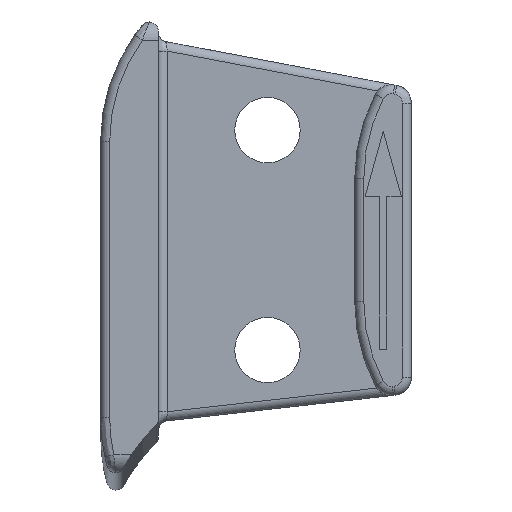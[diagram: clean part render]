
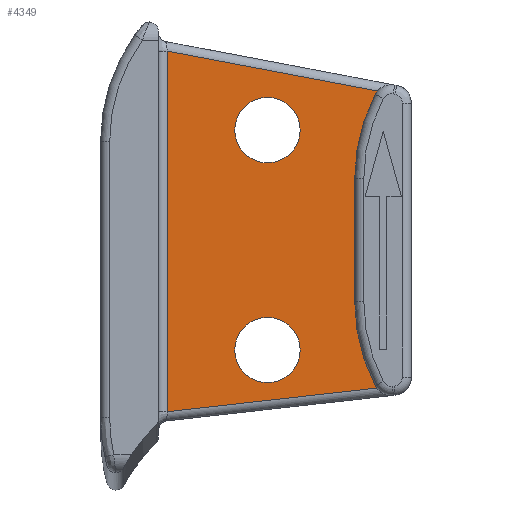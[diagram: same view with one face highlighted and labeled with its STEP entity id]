
A CAD part, left-side view. The second image highlights one B-rep face of the part: STEP entity #4349.
In plain terms, the highlighted planar face has unit normal (-1, 0, 0).
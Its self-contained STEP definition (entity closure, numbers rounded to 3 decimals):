
#763=CARTESIAN_POINT('',(-9.9,-1.,-9.44));
#793=CARTESIAN_POINT('',(-9.9,-6.5,6.05));
#794=DIRECTION('',(1.,0.,0.));
#795=DIRECTION('',(0.,1.,0.));
#796=AXIS2_PLACEMENT_3D('',#793,#794,#795);
#798=CARTESIAN_POINT('',(-9.9,-6.5,6.05));
#799=DIRECTION('',(1.,0.,0.));
#800=DIRECTION('',(0.,-1.,0.));
#801=AXIS2_PLACEMENT_3D('',#798,#799,#800);
#803=CARTESIAN_POINT('',(-9.9,-6.5,-6.05));
#804=DIRECTION('',(1.,0.,0.));
#805=DIRECTION('',(0.,1.,0.));
#806=AXIS2_PLACEMENT_3D('',#803,#804,#805);
#808=CARTESIAN_POINT('',(-9.9,-6.5,-6.05));
#809=DIRECTION('',(1.,0.,0.));
#810=DIRECTION('',(0.,-1.,0.));
#811=AXIS2_PLACEMENT_3D('',#808,#809,#810);
#813=DIRECTION('',(0.,0.,1.));
#814=VECTOR('',#813,19.837);
#815=CARTESIAN_POINT('',(-9.9,-1.,-9.44));
#816=LINE('',#815,#814);
#817=DIRECTION('',(0.,-0.982,-0.186));
#818=VECTOR('',#817,11.768);
#819=CARTESIAN_POINT('',(-9.9,-1.,10.396));
#820=LINE('',#819,#818);
#821=CARTESIAN_POINT('',(-9.9,-21.3,3.39));
#822=DIRECTION('',(1.,0.,0.));
#823=DIRECTION('',(0.,1.,0.));
#824=AXIS2_PLACEMENT_3D('',#821,#822,#823);
#826=DIRECTION('',(0.,0.,1.));
#827=VECTOR('',#826,6.78);
#828=CARTESIAN_POINT('',(-9.9,-11.3,-3.39));
#829=LINE('',#828,#827);
#830=CARTESIAN_POINT('',(-9.9,-21.3,-3.39));
#831=DIRECTION('',(1.,0.,0.));
#832=DIRECTION('',(0.,0.887,-0.462));
#833=AXIS2_PLACEMENT_3D('',#830,#831,#832);
#835=DIRECTION('',(0.,0.994,-0.112));
#836=VECTOR('',#835,11.587);
#837=CARTESIAN_POINT('',(-9.9,-12.514,-8.143));
#838=LINE('',#837,#836);
#1043=CARTESIAN_POINT('',(-9.9,-13.319,-7.549));
#1044=DIRECTION('',(-1.,0.,0.));
#1045=DIRECTION('',(0.,0.887,-0.462));
#1046=AXIS2_PLACEMENT_3D('',#1043,#1044,#1045);
#1233=CARTESIAN_POINT('',(-9.9,-13.319,7.551));
#1234=DIRECTION('',(-1.,0.,0.));
#1235=DIRECTION('',(0.,0.758,0.653));
#1236=AXIS2_PLACEMENT_3D('',#1233,#1234,#1235);
#1480=CARTESIAN_POINT('',(-9.9,-1.,10.396));
#2907=CARTESIAN_POINT('',(-9.9,-11.3,-3.39));
#2908=CARTESIAN_POINT('',(-9.9,-11.3,3.39));
#2909=VERTEX_POINT('',#2907);
#2910=VERTEX_POINT('',#2908);
#2911=CARTESIAN_POINT('',(-9.9,-12.432,-8.011));
#2912=VERTEX_POINT('',#2911);
#2913=CARTESIAN_POINT('',(-9.9,-12.433,8.013));
#2914=VERTEX_POINT('',#2913);
#2915=CARTESIAN_POINT('',(-9.9,-4.7,6.05));
#2916=CARTESIAN_POINT('',(-9.9,-8.3,6.05));
#2917=VERTEX_POINT('',#2915);
#2918=VERTEX_POINT('',#2916);
#2923=CARTESIAN_POINT('',(-9.9,-4.7,-6.05));
#2924=CARTESIAN_POINT('',(-9.9,-8.3,-6.05));
#2925=VERTEX_POINT('',#2923);
#2926=VERTEX_POINT('',#2924);
#3007=CARTESIAN_POINT('',(-9.9,-12.562,8.203));
#3008=VERTEX_POINT('',#3007);
#3009=CARTESIAN_POINT('',(-9.9,-12.514,-8.143));
#3010=VERTEX_POINT('',#3009);
#3015=VERTEX_POINT('',#1480);
#3032=VERTEX_POINT('',#763);
#4316=CARTESIAN_POINT('',(-9.9,0.5,-10.));
#4317=DIRECTION('',(1.,0.,0.));
#4318=DIRECTION('',(0.,0.,1.));
#4319=AXIS2_PLACEMENT_3D('',#4316,#4317,#4318);
#4320=PLANE('',#4319);
#4321=ORIENTED_EDGE('',*,*,#3953,.T.);
#4323=ORIENTED_EDGE('',*,*,#4322,.T.);
#4325=ORIENTED_EDGE('',*,*,#4324,.T.);
#4327=ORIENTED_EDGE('',*,*,#4326,.F.);
#4329=ORIENTED_EDGE('',*,*,#4328,.F.);
#4331=ORIENTED_EDGE('',*,*,#4330,.F.);
#4333=ORIENTED_EDGE('',*,*,#4332,.T.);
#4334=ORIENTED_EDGE('',*,*,#4305,.T.);
#4335=EDGE_LOOP('',(#4321,#4323,#4325,#4327,#4329,#4331,#4333,#4334));
#4336=FACE_OUTER_BOUND('',#4335,.F.);
#4338=ORIENTED_EDGE('',*,*,#4337,.F.);
#4340=ORIENTED_EDGE('',*,*,#4339,.F.);
#4341=EDGE_LOOP('',(#4338,#4340));
#4342=FACE_BOUND('',#4341,.F.);
#4344=ORIENTED_EDGE('',*,*,#4343,.F.);
#4346=ORIENTED_EDGE('',*,*,#4345,.F.);
#4347=EDGE_LOOP('',(#4344,#4346));
#4348=FACE_BOUND('',#4347,.F.);
#4349=ADVANCED_FACE('',(#4336,#4342,#4348),#4320,.F.);
#797=CIRCLE('',#796,1.8);
#802=CIRCLE('',#801,1.8);
#807=CIRCLE('',#806,1.8);
#812=CIRCLE('',#811,1.8);
#825=CIRCLE('',#824,10.);
#834=CIRCLE('',#833,10.);
#1047=CIRCLE('',#1046,1.);
#1237=CIRCLE('',#1236,1.);
#3953=EDGE_CURVE('',#3032,#3015,#816,.T.);
#4305=EDGE_CURVE('',#3010,#3032,#838,.T.);
#4322=EDGE_CURVE('',#3015,#3008,#820,.T.);
#4324=EDGE_CURVE('',#3008,#2914,#1237,.T.);
#4326=EDGE_CURVE('',#2910,#2914,#825,.T.);
#4328=EDGE_CURVE('',#2909,#2910,#829,.T.);
#4330=EDGE_CURVE('',#2912,#2909,#834,.T.);
#4332=EDGE_CURVE('',#2912,#3010,#1047,.T.);
#4337=EDGE_CURVE('',#2925,#2926,#807,.T.);
#4339=EDGE_CURVE('',#2926,#2925,#812,.T.);
#4343=EDGE_CURVE('',#2917,#2918,#797,.T.);
#4345=EDGE_CURVE('',#2918,#2917,#802,.T.);
